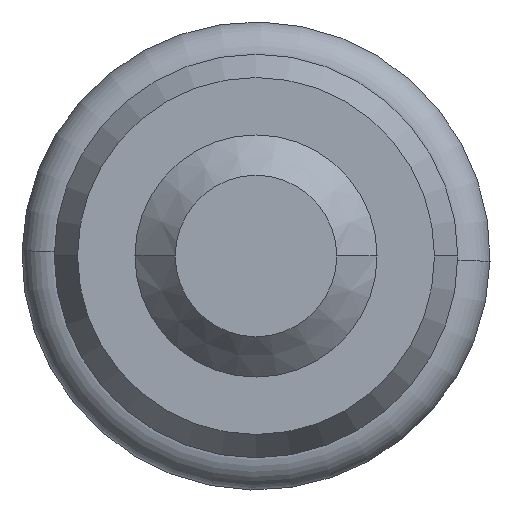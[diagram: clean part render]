
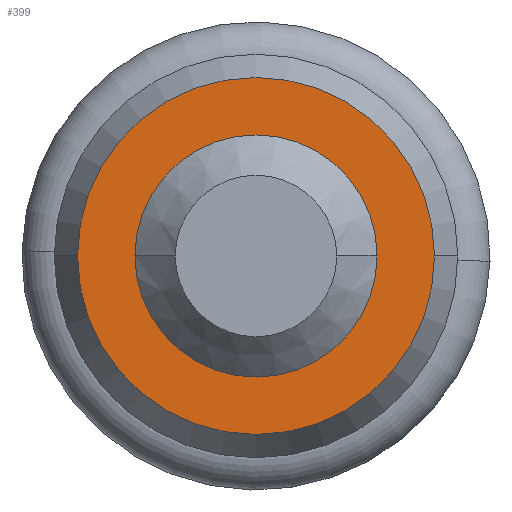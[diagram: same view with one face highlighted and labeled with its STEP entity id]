
A CAD part, front view. The second image highlights one B-rep face of the part: STEP entity #399.
In plain terms, the highlighted planar face has unit normal (0, -1, 0).
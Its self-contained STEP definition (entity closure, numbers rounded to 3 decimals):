
#6 = PLANE ( 'NONE',  #970 ) ;
#25 = AXIS2_PLACEMENT_3D ( 'NONE', #367, #542, #444 ) ;
#29 = CARTESIAN_POINT ( 'NONE',  ( -3., -58., 0. ) ) ;
#34 = DIRECTION ( 'NONE',  ( -1., 0., 0. ) ) ;
#55 = VERTEX_POINT ( 'NONE', #773 ) ;
#94 = AXIS2_PLACEMENT_3D ( 'NONE', #642, #468, #34 ) ;
#150 = EDGE_LOOP ( 'NONE', ( #788, #364 ) ) ;
#154 = ORIENTED_EDGE ( 'NONE', *, *, #1042, .T. ) ;
#168 = AXIS2_PLACEMENT_3D ( 'NONE', #289, #1064, #982 ) ;
#202 = DIRECTION ( 'NONE',  ( 0., 1., 0. ) ) ;
#282 = CIRCLE ( 'NONE', #876, 4.423 ) ;
#289 = CARTESIAN_POINT ( 'NONE',  ( 0., -58., 0. ) ) ;
#293 = CARTESIAN_POINT ( 'NONE',  ( 4.423, -58., 0. ) ) ;
#314 = CIRCLE ( 'NONE', #168, 3. ) ;
#364 = ORIENTED_EDGE ( 'NONE', *, *, #481, .T. ) ;
#367 = CARTESIAN_POINT ( 'NONE',  ( 0., -58., 0. ) ) ;
#371 = DIRECTION ( 'NONE',  ( -1., 0., 0. ) ) ;
#381 = DIRECTION ( 'NONE',  ( 0., -1., 0. ) ) ;
#399 = ADVANCED_FACE ( 'Faccia1', ( #897, #986 ), #6, .F. ) ;
#438 = EDGE_LOOP ( 'NONE', ( #154, #576 ) ) ;
#444 = DIRECTION ( 'NONE',  ( -1., 0., 0. ) ) ;
#463 = CIRCLE ( 'NONE', #25, 4.423 ) ;
#468 = DIRECTION ( 'NONE',  ( 0., 1., 0. ) ) ;
#481 = EDGE_CURVE ( 'NONE', #1057, #55, #463, .T. ) ;
#526 = EDGE_CURVE ( 'NONE', #978, #945, #658, .T. ) ;
#542 = DIRECTION ( 'NONE',  ( 0., -1., 0. ) ) ;
#576 = ORIENTED_EDGE ( 'NONE', *, *, #526, .T. ) ;
#626 = CARTESIAN_POINT ( 'NONE',  ( 3., -58., 0. ) ) ;
#642 = CARTESIAN_POINT ( 'NONE',  ( 0., -58., 0. ) ) ;
#658 = CIRCLE ( 'NONE', #94, 3. ) ;
#773 = CARTESIAN_POINT ( 'NONE',  ( -4.423, -58., 0. ) ) ;
#788 = ORIENTED_EDGE ( 'NONE', *, *, #1117, .T. ) ;
#815 = CARTESIAN_POINT ( 'NONE',  ( 0., -58., 0. ) ) ;
#876 = AXIS2_PLACEMENT_3D ( 'NONE', #815, #381, #1073 ) ;
#892 = CARTESIAN_POINT ( 'NONE',  ( 3., -58., 0. ) ) ;
#897 = FACE_OUTER_BOUND ( 'NONE', #150, .T. ) ;
#945 = VERTEX_POINT ( 'NONE', #29 ) ;
#970 = AXIS2_PLACEMENT_3D ( 'NONE', #892, #202, #371 ) ;
#978 = VERTEX_POINT ( 'NONE', #626 ) ;
#982 = DIRECTION ( 'NONE',  ( -1., 0., 0. ) ) ;
#986 = FACE_BOUND ( 'NONE', #438, .T. ) ;
#1042 = EDGE_CURVE ( 'NONE', #945, #978, #314, .T. ) ;
#1057 = VERTEX_POINT ( 'NONE', #293 ) ;
#1064 = DIRECTION ( 'NONE',  ( 0., 1., 0. ) ) ;
#1073 = DIRECTION ( 'NONE',  ( -1., 0., 0. ) ) ;
#1117 = EDGE_CURVE ( 'NONE', #55, #1057, #282, .T. ) ;
